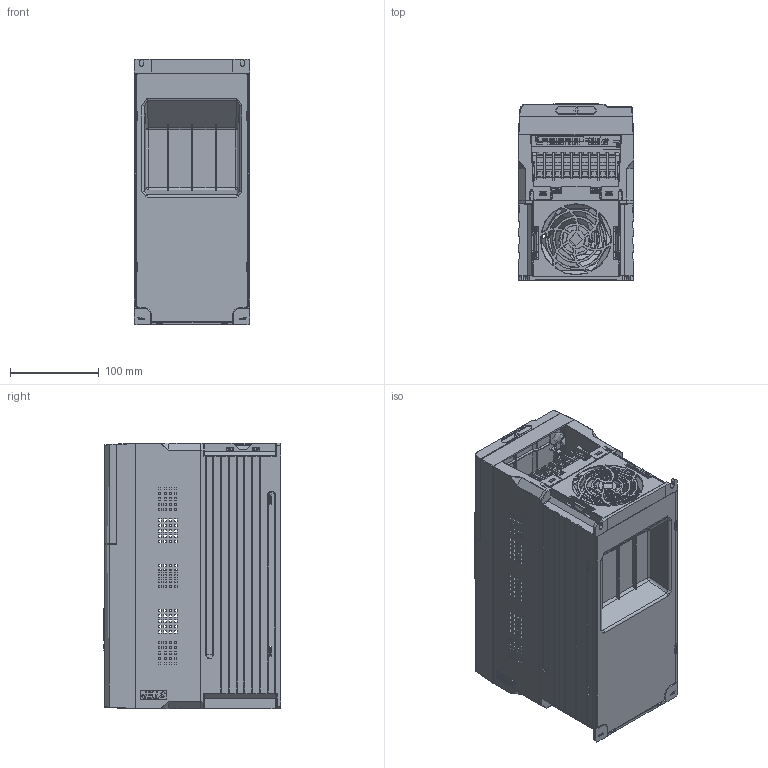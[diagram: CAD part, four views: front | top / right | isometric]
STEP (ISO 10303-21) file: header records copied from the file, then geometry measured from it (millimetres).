
FILE_DESCRIPTION(('STEP AP203'), '1');
FILE_NAME('F0-F1', '', ('UNSPECIFIED'), ('UNSPECIFIED'), 'C3D Converter', 'C3D Toolkit', '');
FILE_SCHEMA(('CONFIG_CONTROL_DESIGN'));
Length unit declared in the file: millimetre
Products named in the file (1): INPRIME-G1.1-4BF
Bounding box: 130.01 x 200.4 x 300.01 mm (x, y, z)
Topology: 14 solids, 568 shells, 4456 faces, 17961 edges, 13760 vertices
Faces by surface type: plane 2646, cylinder 887, bspline 552, cone 176, torus 162, sphere 33
Full cylindrical faces by diameter (mm): 3.3 x4, 3.5 x2, 5 x2, 7 x2, 9.5 x2, 39 x1, 40 x2
Entity records: 263492 total; most frequent: CARTESIAN_POINT 87055, ORIENTED_EDGE 24945, DIRECTION 24618, EDGE_CURVE 17907, VERTEX_POINT 13836, LINE 11774, VECTOR 11774, AXIS2_PLACEMENT_3D 6422
